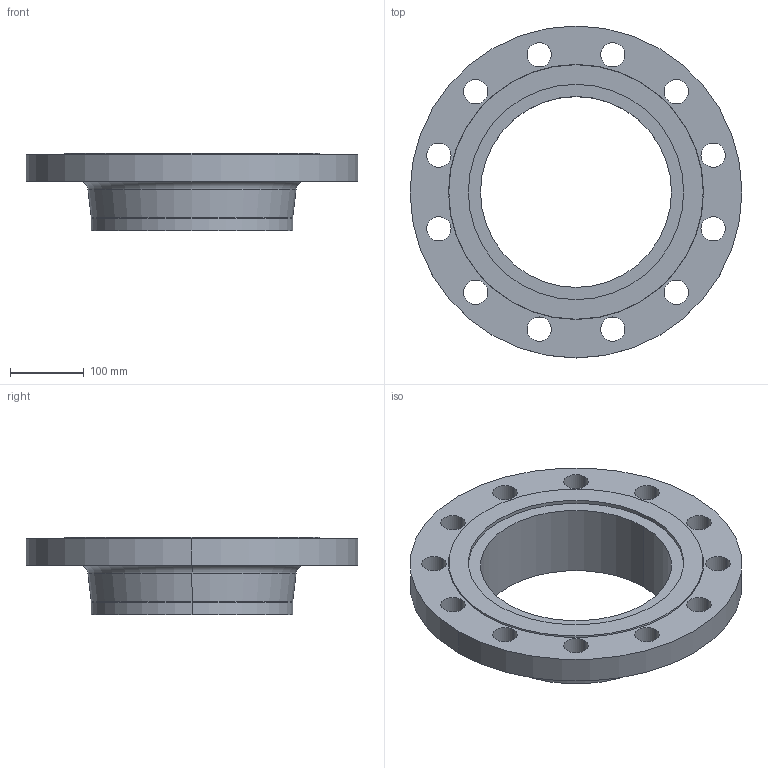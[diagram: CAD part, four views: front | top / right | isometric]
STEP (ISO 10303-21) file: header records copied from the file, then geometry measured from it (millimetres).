
FILE_DESCRIPTION (( 'STEP AP214' ), '1' );
FILE_NAME ('PN40 DN250 Type 11 - Type G Face.STEP', '2019-01-05T16:10:24', ( '' ), ( '' ), 'SwSTEP 2.0', 'SolidWorks 2019', '' );
FILE_SCHEMA (( 'AUTOMOTIVE_DESIGN' ));
Length unit declared in the file: millimetre
Products named in the file (1): PN40 DN250 Type 11 - Type G Face
Bounding box: 450 x 450 x 105 mm (x, y, z)
Volume: 4017159 mm3; surface area: 425875.8 mm2
Topology: 1 solids, 1 shells, 45 faces, 114 edges, 74 vertices
Faces by surface type: cylinder 32, plane 5, torus 4, cone 4
Entity records: 1484 total; most frequent: DIRECTION 284, CARTESIAN_POINT 234, ORIENTED_EDGE 228, AXIS2_PLACEMENT_3D 124, EDGE_CURVE 114, CIRCLE 78, VERTEX_POINT 74, EDGE_LOOP 74
